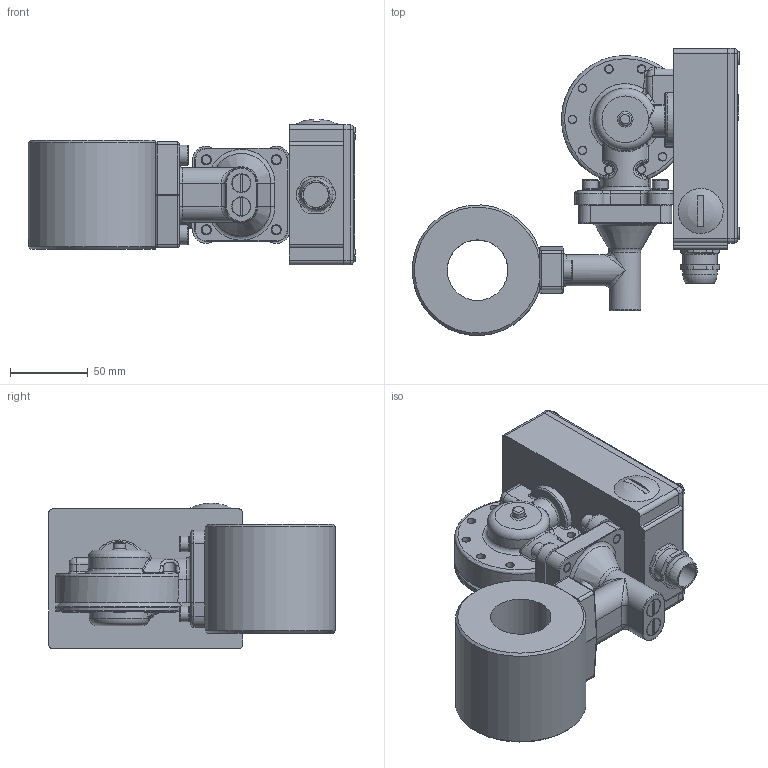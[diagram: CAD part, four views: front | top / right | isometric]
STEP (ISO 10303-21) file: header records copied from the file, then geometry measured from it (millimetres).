
FILE_DESCRIPTION(/* description */ ('Alibre Inc.'),/* implementation_level */ '2;1');
FILE_NAME(/* name */ 'export0',/* time_stamp */ '2012-10-15T13:30:25+02:00',/* author */ (''),/* organization */ (''),/* preprocessor_version */ 'ST-DEVELOPER v14',/* originating_system */ 'Alibre',/* authorisation */ '');
FILE_SCHEMA (('CONFIG_CONTROL_DESIGN'));
Length unit declared in the file: centimetre
Products named in the file (13): ID_1; ID_2; ID_3; ID_4; ID_5; ID_6; ID_7; ID_8
Bounding box: 210.35 x 184.48 x 93.66 mm (x, y, z)
Volume: 694196.9 mm3; surface area: 206499.8 mm2
Topology: 29 solids, 29 shells, 1094 faces, 2578 edges, 1625 vertices
Faces by surface type: plane 540, cylinder 251, bspline 168, torus 65, cone 65, sphere 5
Full cylindrical faces by diameter (mm): 5 x23, 5.5 x18, 6 x12, 6.038 x2, 6.5 x4, 7.5 x1, 8 x18, 8.3 x9, 8.5 x2, 8.7 x2, 9.6 x4, 10 x4, 11.75 x2, 11.85 x1, 12 x2, 13 x2, 14 x2, 16 x1, 17.966 x1, 22 x2, 22.5 x4, 31 x1, 32 x1, 39 x1, 47 x1, 56 x2
Entity records: 34403 total; most frequent: CARTESIAN_POINT 14015, ORIENTED_EDGE 3926, DIRECTION 3183, EDGE_CURVE 1963, VERTEX_POINT 1311, AXIS2_PLACEMENT_3D 1303, EDGE_LOOP 1144, FACE_BOUND 1144
